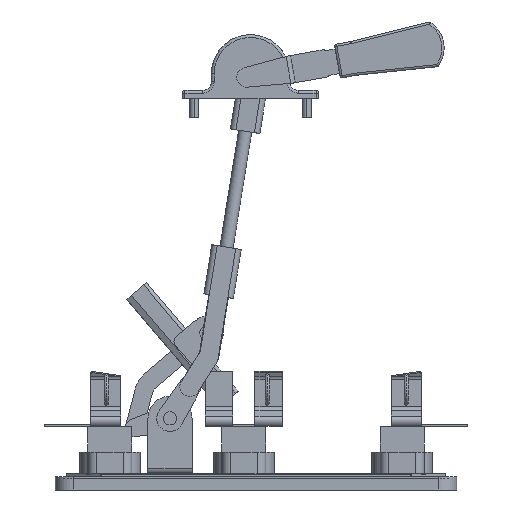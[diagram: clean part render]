
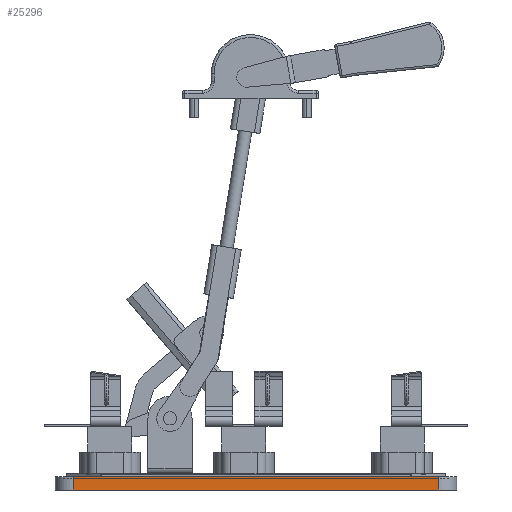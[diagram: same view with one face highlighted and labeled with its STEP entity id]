
A CAD part, left-side view. The second image highlights one B-rep face of the part: STEP entity #25296.
In plain terms, the highlighted planar face has unit normal (-1, 0, 0).
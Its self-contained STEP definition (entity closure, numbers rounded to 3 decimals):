
#1470 = CARTESIAN_POINT ( 'NONE',  ( -132., 104., -15. ) ) ;
#4482 = LINE ( 'NONE', #28042, #25719 ) ;
#4554 = ORIENTED_EDGE ( 'NONE', *, *, #30243, .T. ) ;
#4869 = CARTESIAN_POINT ( 'NONE',  ( -132., -243.8, -15. ) ) ;
#5364 = VECTOR ( 'NONE', #27457, 1000. ) ;
#6231 = DIRECTION ( 'NONE',  ( 0., 0., -1. ) ) ;
#6590 = CARTESIAN_POINT ( 'NONE',  ( -132., 87.8, -15. ) ) ;
#6739 = LINE ( 'NONE', #36873, #25331 ) ;
#10885 = DIRECTION ( 'NONE',  ( 0., -1., 0. ) ) ;
#14077 = EDGE_LOOP ( 'NONE', ( #49403, #4554, #53992, #24115 ) ) ;
#18148 = PLANE ( 'NONE',  #19056 ) ;
#19056 = AXIS2_PLACEMENT_3D ( 'NONE', #19279, #24084, #10885 ) ;
#19279 = CARTESIAN_POINT ( 'NONE',  ( -132., 104., -15. ) ) ;
#20864 = VECTOR ( 'NONE', #6231, 1000. ) ;
#21527 = VERTEX_POINT ( 'NONE', #30994 ) ;
#23246 = EDGE_CURVE ( 'NONE', #42466, #27917, #53104, .T. ) ;
#23456 = EDGE_CURVE ( 'NONE', #24922, #21527, #6739, .T. ) ;
#24084 = DIRECTION ( 'NONE',  ( -1., 0., 0. ) ) ;
#24115 = ORIENTED_EDGE ( 'NONE', *, *, #41396, .T. ) ;
#24922 = VERTEX_POINT ( 'NONE', #54804 ) ;
#25296 = ADVANCED_FACE ( 'NONE', ( #52764 ), #18148, .T. ) ;
#25331 = VECTOR ( 'NONE', #33191, 1000. ) ;
#25719 = VECTOR ( 'NONE', #35996, 1000. ) ;
#27457 = DIRECTION ( 'NONE',  ( 0., -1., 0. ) ) ;
#27917 = VERTEX_POINT ( 'NONE', #4869 ) ;
#28042 = CARTESIAN_POINT ( 'NONE',  ( -132., -243.8, -15. ) ) ;
#30243 = EDGE_CURVE ( 'NONE', #24922, #42466, #32125, .T. ) ;
#30994 = CARTESIAN_POINT ( 'NONE',  ( -132., -243.8, -3. ) ) ;
#32125 = LINE ( 'NONE', #6590, #20864 ) ;
#33191 = DIRECTION ( 'NONE',  ( 0., -1., 0. ) ) ;
#35996 = DIRECTION ( 'NONE',  ( 0., 0., 1. ) ) ;
#36873 = CARTESIAN_POINT ( 'NONE',  ( -132., 104., -3. ) ) ;
#41396 = EDGE_CURVE ( 'NONE', #27917, #21527, #4482, .T. ) ;
#42466 = VERTEX_POINT ( 'NONE', #47513 ) ;
#47513 = CARTESIAN_POINT ( 'NONE',  ( -132., 87.8, -15. ) ) ;
#49403 = ORIENTED_EDGE ( 'NONE', *, *, #23456, .F. ) ;
#52764 = FACE_OUTER_BOUND ( 'NONE', #14077, .T. ) ;
#53104 = LINE ( 'NONE', #1470, #5364 ) ;
#53992 = ORIENTED_EDGE ( 'NONE', *, *, #23246, .T. ) ;
#54804 = CARTESIAN_POINT ( 'NONE',  ( -132., 87.8, -3. ) ) ;
